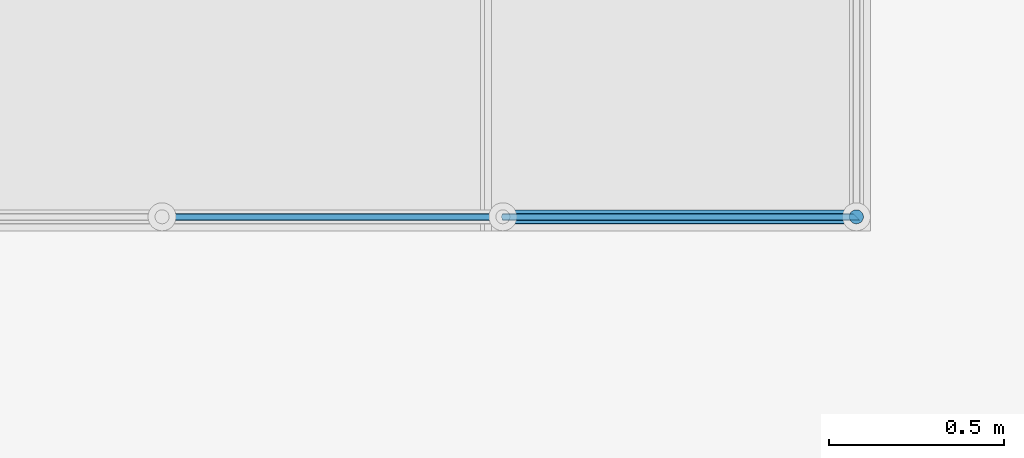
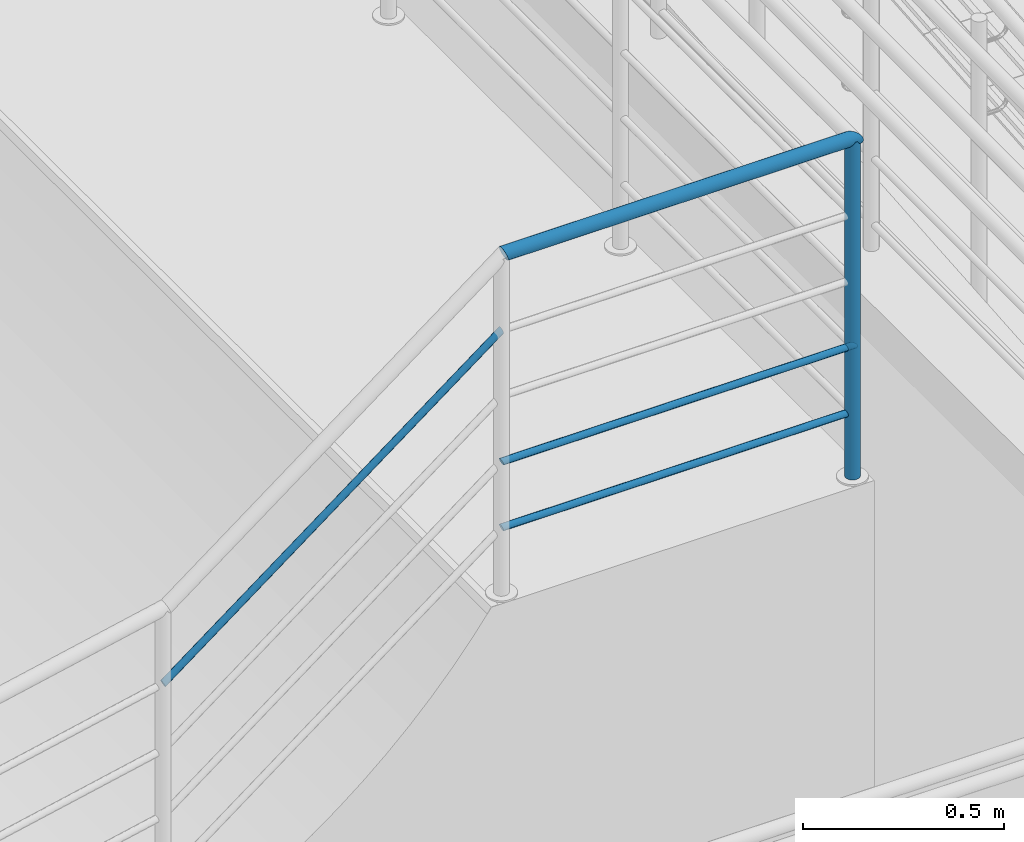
# One storey, part 44 of 237: 6 building element parts, 1 element without a shape of its own.
"""IFC2X3 building model written with IfcOpenShell, lengths in millimetres."""

from ifc_helpers import new_model, entity, si_unit, converted_unit, derived_unit, money_unit, direction, frame, origin_with_axes, place, context, subcontext, project, spatial, faceted_brep, material, type_object, element, aggregate, save


model = new_model("IFC2X3")

# Units and contexts
model_context = context("Model", 3, precision=0.01, world=origin_with_axes(), true_north=direction((0.0, 1.0)))
body_context = subcontext(model_context, "Body", "Model", "MODEL_VIEW")
ifc_project = project(units=[si_unit("LENGTHUNIT", "METRE", prefix="MILLI"), si_unit("AREAUNIT", "SQUARE_METRE"), si_unit("VOLUMEUNIT", "CUBIC_METRE"), converted_unit("PLANEANGLEUNIT", "DEGREE", entity("IfcPlaneAngleMeasure", 0.0174532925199), si_unit("PLANEANGLEUNIT", "RADIAN"), dimensions=[0, 0, 0, 0, 0, 0, 0]), money_unit("USD"), converted_unit("TIMEUNIT", "Year", entity("IfcTimeMeasure", 31556926.0), si_unit("TIMEUNIT", "SECOND"), dimensions=[0, 0, 1, 0, 0, 0, 0]), si_unit("MASSUNIT", "GRAM", prefix="KILO"), si_unit("THERMODYNAMICTEMPERATUREUNIT", "DEGREE_CELSIUS"), si_unit("LUMINOUSINTENSITYUNIT", "LUMEN"), si_unit("ENERGYUNIT", "JOULE", prefix="MEGA"), derived_unit("THERMALCONDUCTANCEUNIT", [(si_unit("POWERUNIT", "WATT"), 1), (si_unit("LENGTHUNIT", "METRE"), -1), (si_unit("THERMODYNAMICTEMPERATUREUNIT", "KELVIN"), -1)]), derived_unit("SPECIFICHEATCAPACITYUNIT", [(si_unit("ENERGYUNIT", "JOULE"), 1), (si_unit("MASSUNIT", "GRAM", prefix="KILO"), -1), (si_unit("THERMODYNAMICTEMPERATUREUNIT", "KELVIN"), -1)]), derived_unit("MASSDENSITYUNIT", [(si_unit("MASSUNIT", "GRAM", prefix="KILO"), 1), (si_unit("VOLUMEUNIT", "CUBIC_METRE"), -1)])], contexts=[model_context])

# Site, building, storey
site_placement = place(None, origin_with_axes())
site = spatial("IfcSite", under=ifc_project, at=site_placement, Name="Local", CompositionType="ELEMENT")
building_placement = place(site_placement, origin_with_axes())
building = spatial("IfcBuilding", under=site, at=building_placement, Name="Construção", CompositionType="ELEMENT")
storey_placement = place(building_placement, origin_with_axes())
storey = spatial("IfcBuildingStorey", under=building, at=storey_placement, Name="Pavimento Térreo", CompositionType="ELEMENT", Elevation=0.0)

# Railing, building element parts
railing_type = type_object("IfcRailingType", Name="Tipo de Guarda-Corpo", PredefinedType="NOTDEFINED")
railing_placement = place(storey_placement, frame((61612.4440926, 28006.4497128, -1265.99547451), z_axis=(0.0, 0.0, 1.0), x_axis=(-1.0, 0.0, 0.0)))
railing = element("IfcRailing", 1, at=railing_placement, inside=storey, type_object=railing_type, Name="Guarda-Corpo - 001", PredefinedType="NOTDEFINED")
ifc_material = material(Name="Aço - Inoxidável")
building_element_part_1_placement = place(railing_placement, origin_with_axes())
building_element_part_1 = element("IfcBuildingElementPart", 2, at=building_element_part_1_placement, material=ifc_material, Name="Aço - Inoxidável", context=body_context, shape_type="Brep", body=[
    faceted_brep([(-2806.52722766, -58.7903860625, 913.887277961), (-2810.00019121, -58.4865411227, 913.887277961), (-2810.00019121, -58.4865411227, 1938.88727796), (-2806.52722766, -58.7903860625, 1938.88727796), (-2813.47315477, -58.7903860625, 913.887277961), (-2803.15978835, -59.692688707, 913.887277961), (-2800.00019121, -61.166033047, 913.887277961), (-2797.14443902, -63.1656522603, 913.887277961), (-2794.67930235, -65.630788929, 913.887277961), (-2792.67968314, -68.4865411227, 913.887277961), (-2791.2063388, -71.6461382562, 913.887277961), (-2790.30403615, -75.0135775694, 913.887277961), (-2790.00019121, -78.4865411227, 913.887277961), (-2790.30403615, -81.9595046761, 913.887277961), (-2791.2063388, -85.3269439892, 913.887277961), (-2792.67968314, -88.4865411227, 913.887277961), (-2794.67930235, -91.3422933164, 913.887277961), (-2797.14443902, -93.8074299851, 913.887277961), (-2800.00019121, -95.8070491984, 913.887277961), (-2803.15978835, -97.2803935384, 913.887277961), (-2806.52722766, -98.182696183, 913.887277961), (-2810.00019121, -98.4865411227, 913.887277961), (-2813.47315477, -98.182696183, 913.887277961), (-2816.84059408, -97.2803935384, 913.887277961), (-2820.00019121, -95.8070491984, 913.887277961), (-2822.85594341, -93.8074299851, 913.887277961), (-2825.32108008, -91.3422933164, 913.887277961), (-2827.32069929, -88.4865411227, 913.887277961), (-2828.79404363, -85.3269439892, 913.887277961), (-2829.69634627, -81.9595046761, 913.887277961), (-2830.00019121, -78.4865411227, 913.887277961), (-2829.69634627, -75.0135775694, 913.887277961), (-2828.79404363, -71.6461382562, 913.887277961), (-2827.32069929, -68.4865411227, 913.887277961), (-2825.32108008, -65.630788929, 913.887277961), (-2822.85594341, -63.1656522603, 913.887277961), (-2820.00019121, -61.166033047, 913.887277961), (-2816.84059408, -59.692688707, 913.887277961), (-2813.47315477, -58.7903860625, 1938.88727796), (-2790.30403615, -81.9595046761, 1938.88727796), (-2790.00019121, -78.4865411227, 1938.88727796), (-2790.30403615, -75.0135775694, 1938.88727796), (-2791.2063388, -71.6461382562, 1938.88727796), (-2792.67968314, -68.4865411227, 1938.88727796), (-2794.67930235, -65.630788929, 1938.88727796), (-2797.14443902, -63.1656522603, 1938.88727796), (-2800.00019121, -61.166033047, 1938.88727796), (-2803.15978835, -59.692688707, 1938.88727796), (-2816.84059408, -59.692688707, 1938.88727796), (-2820.00019121, -61.166033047, 1938.88727796), (-2822.85594341, -63.1656522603, 1938.88727796), (-2825.32108008, -65.630788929, 1938.88727796), (-2827.32069929, -68.4865411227, 1938.88727796), (-2828.79404363, -71.6461382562, 1938.88727796), (-2829.69634627, -75.0135775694, 1938.88727796), (-2830.00019121, -78.4865411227, 1938.88727796), (-2829.69634627, -81.9595046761, 1938.88727796), (-2828.79404363, -85.3269439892, 1938.88727796), (-2827.32069929, -88.4865411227, 1938.88727796), (-2825.32108008, -91.3422933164, 1938.88727796), (-2822.85594341, -93.8074299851, 1938.88727796), (-2820.00019121, -95.8070491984, 1938.88727796), (-2816.84059408, -97.2803935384, 1938.88727796), (-2813.47315477, -98.182696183, 1938.88727796), (-2810.00019121, -98.4865411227, 1938.88727796), (-2806.52722766, -98.182696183, 1938.88727796), (-2803.15978835, -97.2803935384, 1938.88727796), (-2800.00019121, -95.8070491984, 1938.88727796), (-2797.14443902, -93.8074299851, 1938.88727796), (-2794.67930235, -91.3422933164, 1938.88727796), (-2792.67968314, -88.4865411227, 1938.88727796), (-2791.2063388, -85.3269439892, 1938.88727796)], [[[0, 1, 2, 3]], [[4, 1, 0, 5, 6, 7, 8, 9, 10, 11, 12, 13, 14, 15, 16, 17, 18, 19, 20, 21, 22, 23, 24, 25, 26, 27, 28, 29, 30, 31, 32, 33, 34, 35, 36, 37]], [[1, 4, 38, 2]], [[39, 40, 41, 42, 43, 44, 45, 46, 47, 3, 2, 38, 48, 49, 50, 51, 52, 53, 54, 55, 56, 57, 58, 59, 60, 61, 62, 63, 64, 65, 66, 67, 68, 69, 70, 71]], [[5, 0, 3, 47]], [[6, 5, 47, 46]], [[7, 6, 46, 45]], [[8, 7, 45, 44]], [[9, 8, 44, 43]], [[10, 9, 43, 42]], [[11, 10, 42, 41]], [[12, 11, 41, 40]], [[13, 12, 40, 39]], [[14, 13, 39, 71]], [[15, 14, 71, 70]], [[16, 15, 70, 69]], [[17, 16, 69, 68]], [[18, 17, 68, 67]], [[19, 18, 67, 66]], [[20, 19, 66, 65]], [[21, 20, 65, 64]], [[22, 21, 64, 63]], [[23, 22, 63, 62]], [[24, 23, 62, 61]], [[25, 24, 61, 60]], [[26, 25, 60, 59]], [[27, 26, 59, 58]], [[28, 27, 58, 57]], [[29, 28, 57, 56]], [[30, 29, 56, 55]], [[31, 30, 55, 54]], [[32, 31, 54, 53]], [[33, 32, 53, 52]], [[34, 33, 52, 51]], [[35, 34, 51, 50]], [[36, 35, 50, 49]], [[37, 36, 49, 48]], [[4, 37, 48, 38]]]),
])
building_element_part_2_placement = place(railing_placement, origin_with_axes())
building_element_part_2 = element("IfcBuildingElementPart", 3, at=building_element_part_2_placement, material=ifc_material, Name="Aço - Inoxidável", context=body_context, shape_type="Brep", body=[
    faceted_brep([(-829.875144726, -88.4865411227, 975.128953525), (-829.137808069, -88.3346186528, 976.748079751), (-1801.18920335, -88.3346186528, 1710.62375974), (-1801.77109729, -88.4865411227, 1708.88727796), (-830.612481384, -88.3346186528, 973.509827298), (-831.327414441, -87.8834673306, 971.939897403), (-831.998221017, -87.1467951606, 970.466865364), (-832.604518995, -86.1469855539, 969.135488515), (-833.127886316, -84.9144172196, 967.986220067), (-833.55242073, -83.4865411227, 967.053979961), (-833.865222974, -81.906742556, 966.367093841), (-834.056788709, -80.2230228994, 965.946432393), (-834.121297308, -78.4865411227, 965.804777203), (-834.056788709, -76.7500593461, 965.946432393), (-833.865222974, -75.0663396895, 966.367093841), (-833.55242073, -73.4865411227, 967.053979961), (-833.127886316, -72.0586650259, 967.986220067), (-832.604518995, -70.8260966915, 969.135488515), (-831.998221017, -69.8262870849, 970.466865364), (-831.327414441, -69.0896149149, 971.939897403), (-830.612481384, -68.6384635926, 973.509827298), (-829.875144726, -68.4865411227, 975.128953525), (-829.137808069, -68.6384635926, 976.748079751), (-828.422875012, -69.0896149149, 978.318009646), (-827.752068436, -69.8262870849, 979.791041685), (-827.145770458, -70.8260966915, 981.122418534), (-826.622403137, -72.0586650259, 982.271686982), (-826.197868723, -73.4865411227, 983.203927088), (-825.885066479, -75.0663396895, 983.890813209), (-825.693500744, -76.7500593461, 984.311474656), (-825.628992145, -78.4865411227, 984.453129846), (-825.693500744, -80.2230228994, 984.311474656), (-825.885066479, -81.906742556, 983.890813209), (-826.197868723, -83.4865411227, 983.203927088), (-826.622403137, -84.9144172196, 982.271686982), (-827.145770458, -86.1469855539, 981.122418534), (-827.752068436, -87.1467951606, 979.791041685), (-828.422875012, -87.8834673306, 978.318009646), (-1800.62498995, -87.8834673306, 1712.30747939), (-1800.09560045, -87.1467951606, 1713.88727796), (-1799.61712008, -86.1469855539, 1715.31515406), (-1799.20408721, -84.9144172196, 1716.54772239), (-1798.86905164, -83.4865411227, 1717.547532), (-1798.62219326, -81.906742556, 1718.28420417), (-1798.47101274, -80.2230228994, 1718.73535549), (-1798.42010361, -78.4865411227, 1718.88727796), (-1798.47101274, -76.7500593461, 1718.73535549), (-1798.62219326, -75.0663396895, 1718.28420417), (-1798.86905164, -73.4865411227, 1717.547532), (-1799.20408721, -72.0586650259, 1716.54772239), (-1799.61712008, -70.8260966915, 1715.31515406), (-1800.09560045, -69.8262870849, 1713.88727796), (-1800.62498995, -69.0896149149, 1712.30747939), (-1801.18920335, -68.6384635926, 1710.62375974), (-1801.77109729, -68.4865411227, 1708.88727796), (-1802.35299124, -68.6384635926, 1707.15079618), (-1802.91720463, -69.0896149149, 1705.46707653), (-1803.44659413, -69.8262870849, 1703.88727796), (-1803.92507451, -70.8260966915, 1702.45940186), (-1804.33810738, -72.0586650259, 1701.22683353), (-1804.67314294, -73.4865411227, 1700.22702392), (-1804.92000132, -75.0663396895, 1699.49035175), (-1805.07118184, -76.7500593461, 1699.03920043), (-1805.12209097, -78.4865411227, 1698.88727796), (-1805.07118184, -80.2230228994, 1699.03920043), (-1804.92000132, -81.906742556, 1699.49035175), (-1804.67314294, -83.4865411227, 1700.22702392), (-1804.33810738, -84.9144172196, 1701.22683353), (-1803.92507451, -86.1469855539, 1702.45940186), (-1803.44659413, -87.1467951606, 1703.88727796), (-1802.91720463, -87.8834673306, 1705.46707653), (-1802.35299124, -88.3346186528, 1707.15079618)], [[[0, 1, 2, 3]], [[0, 4, 5, 6, 7, 8, 9, 10, 11, 12, 13, 14, 15, 16, 17, 18, 19, 20, 21, 22, 23, 24, 25, 26, 27, 28, 29, 30, 31, 32, 33, 34, 35, 36, 37, 1]], [[1, 37, 38, 2]], [[3, 2, 38, 39, 40, 41, 42, 43, 44, 45, 46, 47, 48, 49, 50, 51, 52, 53, 54, 55, 56, 57, 58, 59, 60, 61, 62, 63, 64, 65, 66, 67, 68, 69, 70, 71]], [[4, 0, 3, 71]], [[5, 4, 71, 70]], [[6, 5, 70, 69]], [[7, 6, 69, 68]], [[8, 7, 68, 67]], [[9, 8, 67, 66]], [[10, 9, 66, 65]], [[11, 10, 65, 64]], [[12, 11, 64, 63]], [[13, 12, 63, 62]], [[14, 13, 62, 61]], [[15, 14, 61, 60]], [[16, 15, 60, 59]], [[17, 16, 59, 58]], [[18, 17, 58, 57]], [[19, 18, 57, 56]], [[20, 19, 56, 55]], [[21, 20, 55, 54]], [[22, 21, 54, 53]], [[23, 22, 53, 52]], [[24, 23, 52, 51]], [[25, 24, 51, 50]], [[26, 25, 50, 49]], [[27, 26, 49, 48]], [[28, 27, 48, 47]], [[29, 28, 47, 46]], [[30, 29, 46, 45]], [[31, 30, 45, 44]], [[32, 31, 44, 43]], [[33, 32, 43, 42]], [[34, 33, 42, 41]], [[35, 34, 41, 40]], [[36, 35, 40, 39]], [[37, 36, 39, 38]]]),
])
building_element_part_3_placement = place(railing_placement, origin_with_axes())
building_element_part_3 = element("IfcBuildingElementPart", 4, at=building_element_part_3_placement, material=ifc_material, Name="Aço - Inoxidável", context=body_context, shape_type="Brep", body=[
    faceted_brep([(-1808.47308464, -98.4865411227, 1938.88727796), (-1807.30929675, -98.182696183, 1942.36024151), (-2790.30403551, -98.182696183, 1942.36024151), (-2790.00019056, -98.4865411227, 1938.88727796), (-1809.63687253, -98.182696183, 1935.41431441), (-1810.76529932, -97.2803935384, 1932.04687509), (-1811.82407832, -95.8070491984, 1928.88727796), (-1812.78103908, -93.8074299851, 1926.03152577), (-1813.60710481, -91.3422933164, 1923.5663891), (-1814.27717595, -88.4865411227, 1921.56676988), (-1814.7708927, -85.3269439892, 1920.09342554), (-1815.07325375, -81.9595046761, 1919.1911229), (-1815.175072, -78.4865411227, 1918.88727796), (-1815.07325375, -75.0135775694, 1919.1911229), (-1814.7708927, -71.6461382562, 1920.09342554), (-1814.27717595, -68.4865411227, 1921.56676988), (-1813.60710481, -65.630788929, 1923.5663891), (-1812.78103908, -63.1656522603, 1926.03152577), (-1811.82407832, -61.166033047, 1928.88727796), (-1810.76529932, -59.692688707, 1932.04687509), (-1809.63687253, -58.7903860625, 1935.41431441), (-1808.47308464, -58.4865411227, 1938.88727796), (-1807.30929675, -58.7903860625, 1942.36024151), (-1806.18086997, -59.692688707, 1945.72768083), (-1805.12209097, -61.166033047, 1948.88727796), (-1804.16513021, -63.1656522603, 1951.74303015), (-1803.33906447, -65.630788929, 1954.20816682), (-1802.66899334, -68.4865411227, 1956.20778604), (-1802.17527658, -71.6461382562, 1957.68113038), (-1801.87291554, -75.0135775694, 1958.58343302), (-1801.77109729, -78.4865411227, 1958.88727796), (-1801.87291554, -81.9595046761, 1958.58343302), (-1802.17527658, -85.3269439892, 1957.68113038), (-1802.66899334, -88.4865411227, 1956.20778604), (-1803.33906447, -91.3422933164, 1954.20816682), (-1804.16513021, -93.8074299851, 1951.74303015), (-1805.12209097, -95.8070491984, 1948.88727796), (-1806.18086997, -97.2803935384, 1945.72768083), (-2791.20633818, -97.2803935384, 1945.72768083), (-2792.67968257, -95.8070491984, 1948.88727796), (-2794.67930185, -93.8074299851, 1951.74303015), (-2797.1444386, -91.3422933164, 1954.20816682), (-2800.00019088, -88.4865411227, 1956.20778604), (-2803.15978812, -85.3269439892, 1957.68113038), (-2806.52722755, -81.9595046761, 1958.58343302), (-2810.00019121, -78.4865411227, 1958.88727796), (-2813.47315488, -75.0135775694, 1958.58343302), (-2816.84059431, -71.6461382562, 1957.68113038), (-2820.00019154, -68.4865411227, 1956.20778604), (-2822.85594383, -65.630788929, 1954.20816682), (-2825.32108058, -63.1656522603, 1951.74303015), (-2827.32069986, -61.166033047, 1948.88727796), (-2828.79404425, -59.692688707, 1945.72768083), (-2829.69634692, -58.7903860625, 1942.36024151), (-2830.00019187, -58.4865411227, 1938.88727796), (-2829.69634692, -58.7903860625, 1935.41431441), (-2828.79404425, -59.692688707, 1932.04687509), (-2827.32069986, -61.166033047, 1928.88727796), (-2825.32108058, -63.1656522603, 1926.03152577), (-2822.85594383, -65.630788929, 1923.5663891), (-2820.00019154, -68.4865411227, 1921.56676988), (-2816.84059431, -71.6461382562, 1920.09342554), (-2813.47315488, -75.0135775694, 1919.1911229), (-2810.00019121, -78.4865411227, 1918.88727796), (-2806.52722755, -81.9595046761, 1919.1911229), (-2803.15978812, -85.3269439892, 1920.09342554), (-2800.00019088, -88.4865411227, 1921.56676988), (-2797.1444386, -91.3422933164, 1923.5663891), (-2794.67930185, -93.8074299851, 1926.03152577), (-2792.67968257, -95.8070491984, 1928.88727796), (-2791.20633818, -97.2803935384, 1932.04687509), (-2790.30403551, -98.182696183, 1935.41431441)], [[[0, 1, 2, 3]], [[0, 4, 5, 6, 7, 8, 9, 10, 11, 12, 13, 14, 15, 16, 17, 18, 19, 20, 21, 22, 23, 24, 25, 26, 27, 28, 29, 30, 31, 32, 33, 34, 35, 36, 37, 1]], [[1, 37, 38, 2]], [[3, 2, 38, 39, 40, 41, 42, 43, 44, 45, 46, 47, 48, 49, 50, 51, 52, 53, 54, 55, 56, 57, 58, 59, 60, 61, 62, 63, 64, 65, 66, 67, 68, 69, 70, 71]], [[4, 0, 3, 71]], [[5, 4, 71, 70]], [[6, 5, 70, 69]], [[7, 6, 69, 68]], [[8, 7, 68, 67]], [[9, 8, 67, 66]], [[10, 9, 66, 65]], [[11, 10, 65, 64]], [[12, 11, 64, 63]], [[13, 12, 63, 62]], [[14, 13, 62, 61]], [[15, 14, 61, 60]], [[16, 15, 60, 59]], [[17, 16, 59, 58]], [[18, 17, 58, 57]], [[19, 18, 57, 56]], [[20, 19, 56, 55]], [[21, 20, 55, 54]], [[22, 21, 54, 53]], [[23, 22, 53, 52]], [[24, 23, 52, 51]], [[25, 24, 51, 50]], [[26, 25, 50, 49]], [[27, 26, 49, 48]], [[28, 27, 48, 47]], [[29, 28, 47, 46]], [[30, 29, 46, 45]], [[31, 30, 45, 44]], [[32, 31, 44, 43]], [[33, 32, 43, 42]], [[34, 33, 42, 41]], [[35, 34, 41, 40]], [[36, 35, 40, 39]], [[37, 36, 39, 38]]]),
])
building_element_part_4_placement = place(railing_placement, origin_with_axes())
building_element_part_4 = element("IfcBuildingElementPart", 5, at=building_element_part_4_placement, material=ifc_material, Name="Aço - Inoxidável", context=body_context, shape_type="Brep", body=[
    faceted_brep([(-1801.77109729, -88.4865411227, 1108.88727796), (-1801.18920335, -88.3346186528, 1110.62375974), (-2800.15211336, -88.3346186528, 1110.62375974), (-2800.00019088, -88.4865411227, 1108.88727796), (-1802.35299124, -88.3346186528, 1107.15079618), (-1802.91720463, -87.8834673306, 1105.46707653), (-1803.44659413, -87.1467951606, 1103.88727796), (-1803.92507451, -86.1469855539, 1102.45940186), (-1804.33810738, -84.9144172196, 1101.22683353), (-1804.67314294, -83.4865411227, 1100.22702392), (-1804.92000132, -81.906742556, 1099.49035175), (-1805.07118184, -80.2230228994, 1099.03920043), (-1805.12209097, -78.4865411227, 1098.88727796), (-1805.07118184, -76.7500593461, 1099.03920043), (-1804.92000132, -75.0663396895, 1099.49035175), (-1804.67314294, -73.4865411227, 1100.22702392), (-1804.33810738, -72.0586650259, 1101.22683353), (-1803.92507451, -70.8260966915, 1102.45940186), (-1803.44659413, -69.8262870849, 1103.88727796), (-1802.91720463, -69.0896149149, 1105.46707653), (-1802.35299124, -68.6384635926, 1107.15079618), (-1801.77109729, -68.4865411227, 1108.88727796), (-1801.18920335, -68.6384635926, 1110.62375974), (-1800.62498995, -69.0896149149, 1112.30747939), (-1800.09560045, -69.8262870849, 1113.88727796), (-1799.61712008, -70.8260966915, 1115.31515406), (-1799.20408721, -72.0586650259, 1116.54772239), (-1798.86905164, -73.4865411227, 1117.547532), (-1798.62219326, -75.0663396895, 1118.28420417), (-1798.47101274, -76.7500593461, 1118.73535549), (-1798.42010361, -78.4865411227, 1118.88727796), (-1798.47101274, -80.2230228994, 1118.73535549), (-1798.62219326, -81.906742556, 1118.28420417), (-1798.86905164, -83.4865411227, 1117.547532), (-1799.20408721, -84.9144172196, 1116.54772239), (-1799.61712008, -86.1469855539, 1115.31515406), (-1800.09560045, -87.1467951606, 1113.88727796), (-1800.62498995, -87.8834673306, 1112.30747939), (-2800.6032647, -87.8834673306, 1112.30747939), (-2801.33993689, -87.1467951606, 1113.88727796), (-2802.33974653, -86.1469855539, 1115.31515406), (-2803.57231491, -84.9144172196, 1116.54772239), (-2805.00019105, -83.4865411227, 1117.547532), (-2806.57998967, -81.906742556, 1118.28420417), (-2808.26370938, -80.2230228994, 1118.73535549), (-2810.00019121, -78.4865411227, 1118.88727796), (-2811.73667305, -76.7500593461, 1118.73535549), (-2813.42039276, -75.0663396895, 1118.28420417), (-2815.00019138, -73.4865411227, 1117.547532), (-2816.42806752, -72.0586650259, 1116.54772239), (-2817.6606359, -70.8260966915, 1115.31515406), (-2818.66044554, -69.8262870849, 1113.88727796), (-2819.39711773, -69.0896149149, 1112.30747939), (-2819.84826907, -68.6384635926, 1110.62375974), (-2820.00019154, -68.4865411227, 1108.88727796), (-2819.84826907, -68.6384635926, 1107.15079618), (-2819.39711773, -69.0896149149, 1105.46707653), (-2818.66044554, -69.8262870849, 1103.88727796), (-2817.6606359, -70.8260966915, 1102.45940186), (-2816.42806752, -72.0586650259, 1101.22683353), (-2815.00019138, -73.4865411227, 1100.22702392), (-2813.42039276, -75.0663396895, 1099.49035175), (-2811.73667305, -76.7500593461, 1099.03920043), (-2810.00019121, -78.4865411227, 1098.88727796), (-2808.26370938, -80.2230228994, 1099.03920043), (-2806.57998967, -81.906742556, 1099.49035175), (-2805.00019105, -83.4865411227, 1100.22702392), (-2803.57231491, -84.9144172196, 1101.22683353), (-2802.33974653, -86.1469855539, 1102.45940186), (-2801.33993689, -87.1467951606, 1103.88727796), (-2800.6032647, -87.8834673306, 1105.46707653), (-2800.15211336, -88.3346186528, 1107.15079618)], [[[0, 1, 2, 3]], [[0, 4, 5, 6, 7, 8, 9, 10, 11, 12, 13, 14, 15, 16, 17, 18, 19, 20, 21, 22, 23, 24, 25, 26, 27, 28, 29, 30, 31, 32, 33, 34, 35, 36, 37, 1]], [[1, 37, 38, 2]], [[3, 2, 38, 39, 40, 41, 42, 43, 44, 45, 46, 47, 48, 49, 50, 51, 52, 53, 54, 55, 56, 57, 58, 59, 60, 61, 62, 63, 64, 65, 66, 67, 68, 69, 70, 71]], [[4, 0, 3, 71]], [[5, 4, 71, 70]], [[6, 5, 70, 69]], [[7, 6, 69, 68]], [[8, 7, 68, 67]], [[9, 8, 67, 66]], [[10, 9, 66, 65]], [[11, 10, 65, 64]], [[12, 11, 64, 63]], [[13, 12, 63, 62]], [[14, 13, 62, 61]], [[15, 14, 61, 60]], [[16, 15, 60, 59]], [[17, 16, 59, 58]], [[18, 17, 58, 57]], [[19, 18, 57, 56]], [[20, 19, 56, 55]], [[21, 20, 55, 54]], [[22, 21, 54, 53]], [[23, 22, 53, 52]], [[24, 23, 52, 51]], [[25, 24, 51, 50]], [[26, 25, 50, 49]], [[27, 26, 49, 48]], [[28, 27, 48, 47]], [[29, 28, 47, 46]], [[30, 29, 46, 45]], [[31, 30, 45, 44]], [[32, 31, 44, 43]], [[33, 32, 43, 42]], [[34, 33, 42, 41]], [[35, 34, 41, 40]], [[36, 35, 40, 39]], [[37, 36, 39, 38]]]),
])
building_element_part_5_placement = place(railing_placement, origin_with_axes())
building_element_part_5 = element("IfcBuildingElementPart", 6, at=building_element_part_5_placement, material=ifc_material, Name="Aço - Inoxidável", context=body_context, shape_type="Brep", body=[
    faceted_brep([(-1801.77109729, -88.4865411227, 1308.88727796), (-1801.18920335, -88.3346186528, 1310.62375974), (-2800.15211336, -88.3346186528, 1310.62375974), (-2800.00019088, -88.4865411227, 1308.88727796), (-1802.35299124, -88.3346186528, 1307.15079618), (-1802.91720463, -87.8834673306, 1305.46707653), (-1803.44659413, -87.1467951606, 1303.88727796), (-1803.92507451, -86.1469855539, 1302.45940186), (-1804.33810738, -84.9144172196, 1301.22683353), (-1804.67314294, -83.4865411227, 1300.22702392), (-1804.92000132, -81.906742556, 1299.49035175), (-1805.07118184, -80.2230228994, 1299.03920043), (-1805.12209097, -78.4865411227, 1298.88727796), (-1805.07118184, -76.7500593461, 1299.03920043), (-1804.92000132, -75.0663396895, 1299.49035175), (-1804.67314294, -73.4865411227, 1300.22702392), (-1804.33810738, -72.0586650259, 1301.22683353), (-1803.92507451, -70.8260966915, 1302.45940186), (-1803.44659413, -69.8262870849, 1303.88727796), (-1802.91720463, -69.0896149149, 1305.46707653), (-1802.35299124, -68.6384635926, 1307.15079618), (-1801.77109729, -68.4865411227, 1308.88727796), (-1801.18920335, -68.6384635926, 1310.62375974), (-1800.62498995, -69.0896149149, 1312.30747939), (-1800.09560045, -69.8262870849, 1313.88727796), (-1799.61712008, -70.8260966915, 1315.31515406), (-1799.20408721, -72.0586650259, 1316.54772239), (-1798.86905164, -73.4865411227, 1317.547532), (-1798.62219326, -75.0663396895, 1318.28420417), (-1798.47101274, -76.7500593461, 1318.73535549), (-1798.42010361, -78.4865411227, 1318.88727796), (-1798.47101274, -80.2230228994, 1318.73535549), (-1798.62219326, -81.906742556, 1318.28420417), (-1798.86905164, -83.4865411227, 1317.547532), (-1799.20408721, -84.9144172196, 1316.54772239), (-1799.61712008, -86.1469855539, 1315.31515406), (-1800.09560045, -87.1467951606, 1313.88727796), (-1800.62498995, -87.8834673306, 1312.30747939), (-2800.6032647, -87.8834673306, 1312.30747939), (-2801.33993689, -87.1467951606, 1313.88727796), (-2802.33974653, -86.1469855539, 1315.31515406), (-2803.57231491, -84.9144172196, 1316.54772239), (-2805.00019105, -83.4865411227, 1317.547532), (-2806.57998967, -81.906742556, 1318.28420417), (-2808.26370938, -80.2230228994, 1318.73535549), (-2810.00019121, -78.4865411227, 1318.88727796), (-2811.73667305, -76.7500593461, 1318.73535549), (-2813.42039276, -75.0663396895, 1318.28420417), (-2815.00019138, -73.4865411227, 1317.547532), (-2816.42806752, -72.0586650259, 1316.54772239), (-2817.6606359, -70.8260966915, 1315.31515406), (-2818.66044554, -69.8262870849, 1313.88727796), (-2819.39711773, -69.0896149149, 1312.30747939), (-2819.84826907, -68.6384635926, 1310.62375974), (-2820.00019154, -68.4865411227, 1308.88727796), (-2819.84826907, -68.6384635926, 1307.15079618), (-2819.39711773, -69.0896149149, 1305.46707653), (-2818.66044554, -69.8262870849, 1303.88727796), (-2817.6606359, -70.8260966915, 1302.45940186), (-2816.42806752, -72.0586650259, 1301.22683353), (-2815.00019138, -73.4865411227, 1300.22702392), (-2813.42039276, -75.0663396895, 1299.49035175), (-2811.73667305, -76.7500593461, 1299.03920043), (-2810.00019121, -78.4865411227, 1298.88727796), (-2808.26370938, -80.2230228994, 1299.03920043), (-2806.57998967, -81.906742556, 1299.49035175), (-2805.00019105, -83.4865411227, 1300.22702392), (-2803.57231491, -84.9144172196, 1301.22683353), (-2802.33974653, -86.1469855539, 1302.45940186), (-2801.33993689, -87.1467951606, 1303.88727796), (-2800.6032647, -87.8834673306, 1305.46707653), (-2800.15211336, -88.3346186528, 1307.15079618)], [[[0, 1, 2, 3]], [[0, 4, 5, 6, 7, 8, 9, 10, 11, 12, 13, 14, 15, 16, 17, 18, 19, 20, 21, 22, 23, 24, 25, 26, 27, 28, 29, 30, 31, 32, 33, 34, 35, 36, 37, 1]], [[1, 37, 38, 2]], [[3, 2, 38, 39, 40, 41, 42, 43, 44, 45, 46, 47, 48, 49, 50, 51, 52, 53, 54, 55, 56, 57, 58, 59, 60, 61, 62, 63, 64, 65, 66, 67, 68, 69, 70, 71]], [[4, 0, 3, 71]], [[5, 4, 71, 70]], [[6, 5, 70, 69]], [[7, 6, 69, 68]], [[8, 7, 68, 67]], [[9, 8, 67, 66]], [[10, 9, 66, 65]], [[11, 10, 65, 64]], [[12, 11, 64, 63]], [[13, 12, 63, 62]], [[14, 13, 62, 61]], [[15, 14, 61, 60]], [[16, 15, 60, 59]], [[17, 16, 59, 58]], [[18, 17, 58, 57]], [[19, 18, 57, 56]], [[20, 19, 56, 55]], [[21, 20, 55, 54]], [[22, 21, 54, 53]], [[23, 22, 53, 52]], [[24, 23, 52, 51]], [[25, 24, 51, 50]], [[26, 25, 50, 49]], [[27, 26, 49, 48]], [[28, 27, 48, 47]], [[29, 28, 47, 46]], [[30, 29, 46, 45]], [[31, 30, 45, 44]], [[32, 31, 44, 43]], [[33, 32, 43, 42]], [[34, 33, 42, 41]], [[35, 34, 41, 40]], [[36, 35, 40, 39]], [[37, 36, 39, 38]]]),
])
building_element_part_6_placement = place(railing_placement, origin_with_axes())
building_element_part_6 = element("IfcBuildingElementPart", 7, at=building_element_part_6_placement, material=ifc_material, Name="Aço - Inoxidável", context=body_context, shape_type="Brep", body=[
    faceted_brep([(-1801.77109729, -88.4865411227, 1308.88727796), (-1801.18920335, -88.3346186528, 1310.62375974), (-2800.15211336, -88.3346186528, 1310.62375974), (-2800.00019088, -88.4865411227, 1308.88727796), (-1802.35299124, -88.3346186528, 1307.15079618), (-1802.91720463, -87.8834673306, 1305.46707653), (-1803.44659413, -87.1467951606, 1303.88727796), (-1803.92507451, -86.1469855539, 1302.45940186), (-1804.33810738, -84.9144172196, 1301.22683353), (-1804.67314294, -83.4865411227, 1300.22702392), (-1804.92000132, -81.906742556, 1299.49035175), (-1805.07118184, -80.2230228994, 1299.03920043), (-1805.12209097, -78.4865411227, 1298.88727796), (-1805.07118184, -76.7500593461, 1299.03920043), (-1804.92000132, -75.0663396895, 1299.49035175), (-1804.67314294, -73.4865411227, 1300.22702392), (-1804.33810738, -72.0586650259, 1301.22683353), (-1803.92507451, -70.8260966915, 1302.45940186), (-1803.44659413, -69.8262870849, 1303.88727796), (-1802.91720463, -69.0896149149, 1305.46707653), (-1802.35299124, -68.6384635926, 1307.15079618), (-1801.77109729, -68.4865411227, 1308.88727796), (-1801.18920335, -68.6384635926, 1310.62375974), (-1800.62498995, -69.0896149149, 1312.30747939), (-1800.09560045, -69.8262870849, 1313.88727796), (-1799.61712008, -70.8260966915, 1315.31515406), (-1799.20408721, -72.0586650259, 1316.54772239), (-1798.86905164, -73.4865411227, 1317.547532), (-1798.62219326, -75.0663396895, 1318.28420417), (-1798.47101274, -76.7500593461, 1318.73535549), (-1798.42010361, -78.4865411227, 1318.88727796), (-1798.47101274, -80.2230228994, 1318.73535549), (-1798.62219326, -81.906742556, 1318.28420417), (-1798.86905164, -83.4865411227, 1317.547532), (-1799.20408721, -84.9144172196, 1316.54772239), (-1799.61712008, -86.1469855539, 1315.31515406), (-1800.09560045, -87.1467951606, 1313.88727796), (-1800.62498995, -87.8834673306, 1312.30747939), (-2800.6032647, -87.8834673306, 1312.30747939), (-2801.33993689, -87.1467951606, 1313.88727796), (-2802.33974653, -86.1469855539, 1315.31515406), (-2803.57231491, -84.9144172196, 1316.54772239), (-2805.00019105, -83.4865411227, 1317.547532), (-2806.57998967, -81.906742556, 1318.28420417), (-2808.26370938, -80.2230228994, 1318.73535549), (-2810.00019121, -78.4865411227, 1318.88727796), (-2811.73667305, -76.7500593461, 1318.73535549), (-2813.42039276, -75.0663396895, 1318.28420417), (-2815.00019138, -73.4865411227, 1317.547532), (-2816.42806752, -72.0586650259, 1316.54772239), (-2817.6606359, -70.8260966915, 1315.31515406), (-2818.66044554, -69.8262870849, 1313.88727796), (-2819.39711773, -69.0896149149, 1312.30747939), (-2819.84826907, -68.6384635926, 1310.62375974), (-2820.00019154, -68.4865411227, 1308.88727796), (-2819.84826907, -68.6384635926, 1307.15079618), (-2819.39711773, -69.0896149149, 1305.46707653), (-2818.66044554, -69.8262870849, 1303.88727796), (-2817.6606359, -70.8260966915, 1302.45940186), (-2816.42806752, -72.0586650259, 1301.22683353), (-2815.00019138, -73.4865411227, 1300.22702392), (-2813.42039276, -75.0663396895, 1299.49035175), (-2811.73667305, -76.7500593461, 1299.03920043), (-2810.00019121, -78.4865411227, 1298.88727796), (-2808.26370938, -80.2230228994, 1299.03920043), (-2806.57998967, -81.906742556, 1299.49035175), (-2805.00019105, -83.4865411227, 1300.22702392), (-2803.57231491, -84.9144172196, 1301.22683353), (-2802.33974653, -86.1469855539, 1302.45940186), (-2801.33993689, -87.1467951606, 1303.88727796), (-2800.6032647, -87.8834673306, 1305.46707653), (-2800.15211336, -88.3346186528, 1307.15079618)], [[[0, 1, 2, 3]], [[0, 4, 5, 6, 7, 8, 9, 10, 11, 12, 13, 14, 15, 16, 17, 18, 19, 20, 21, 22, 23, 24, 25, 26, 27, 28, 29, 30, 31, 32, 33, 34, 35, 36, 37, 1]], [[1, 37, 38, 2]], [[3, 2, 38, 39, 40, 41, 42, 43, 44, 45, 46, 47, 48, 49, 50, 51, 52, 53, 54, 55, 56, 57, 58, 59, 60, 61, 62, 63, 64, 65, 66, 67, 68, 69, 70, 71]], [[4, 0, 3, 71]], [[5, 4, 71, 70]], [[6, 5, 70, 69]], [[7, 6, 69, 68]], [[8, 7, 68, 67]], [[9, 8, 67, 66]], [[10, 9, 66, 65]], [[11, 10, 65, 64]], [[12, 11, 64, 63]], [[13, 12, 63, 62]], [[14, 13, 62, 61]], [[15, 14, 61, 60]], [[16, 15, 60, 59]], [[17, 16, 59, 58]], [[18, 17, 58, 57]], [[19, 18, 57, 56]], [[20, 19, 56, 55]], [[21, 20, 55, 54]], [[22, 21, 54, 53]], [[23, 22, 53, 52]], [[24, 23, 52, 51]], [[25, 24, 51, 50]], [[26, 25, 50, 49]], [[27, 26, 49, 48]], [[28, 27, 48, 47]], [[29, 28, 47, 46]], [[30, 29, 46, 45]], [[31, 30, 45, 44]], [[32, 31, 44, 43]], [[33, 32, 43, 42]], [[34, 33, 42, 41]], [[35, 34, 41, 40]], [[36, 35, 40, 39]], [[37, 36, 39, 38]]]),
])
aggregate(railing, [building_element_part_1, building_element_part_2, building_element_part_3, building_element_part_4, building_element_part_5, building_element_part_6])

save(model, "model.ifc")
